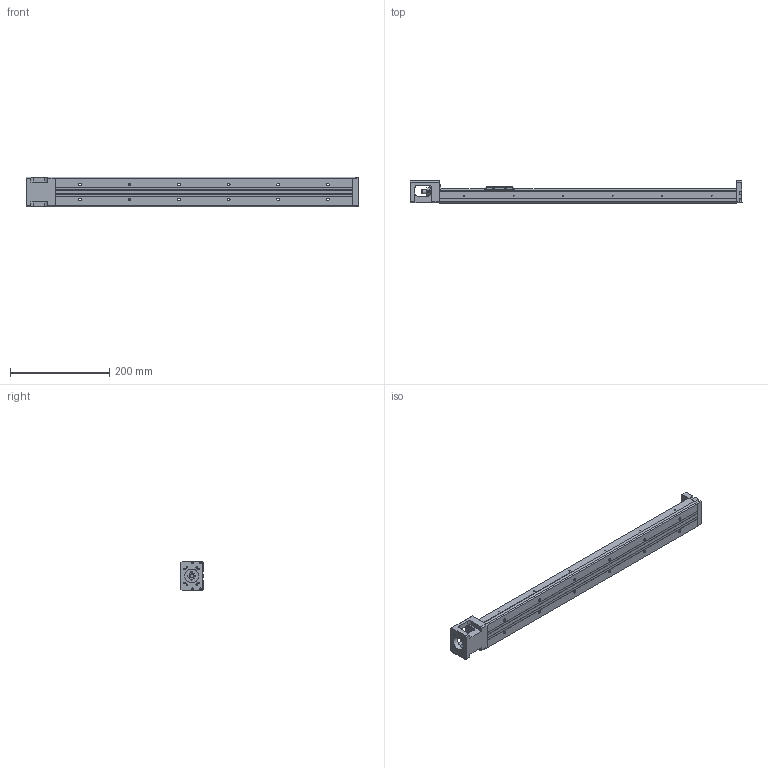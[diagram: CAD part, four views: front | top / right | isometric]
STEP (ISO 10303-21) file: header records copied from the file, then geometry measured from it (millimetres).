
FILE_DESCRIPTION(/* description */ (''),/* implementation_level */ '2;1');
FILE_NAME(/* name */ 'KP33S-600-D.stp',/* time_stamp */ '2020-06-04T18:20:27+08:00',/* author */ (''),/* organization */ (''),/* preprocessor_version */ 'ST-DEVELOPER v14',/* originating_system */ 'SIEMENS PLM Software NX 8.0',/* authorisation */ '');
FILE_SCHEMA (('AUTOMOTIVE_DESIGN { 1 0 10303 214 3 1 1 1 }'));
Length unit declared in the file: millimetre
Products named in the file (1): model1
Bounding box: 670 x 44.45 x 60 mm (x, y, z)
Volume: 684223.1 mm3; surface area: 193648 mm2
Topology: 5 solids, 14 shells, 668 faces, 1691 edges, 1113 vertices
Faces by surface type: plane 384, cylinder 199, bspline 31, cone 22, extrusion 21, torus 9, revolution 2
Full cylindrical faces by diameter (mm): 1.6 x5, 1.65 x4, 2.15 x6, 2.42 x4, 2.45 x4, 2.5 x16, 3.2 x4, 3.3 x4, 3.4 x4, 3.5 x10, 3.969 x1, 4 x4, 4.001 x1, 4.135 x2, 5.5 x12, 6 x4, 7.6 x1, 8 x5, 9.5 x12, 10.72 x3, 11.8 x2, 12 x6, 12.8 x1, 13 x2, 14 x1, 17.38 x3, 21.5 x1, 22 x2, 28 x1
Entity records: 34788 total; most frequent: CARTESIAN_POINT 16368, DIRECTION 3020, ORIENTED_EDGE 2918, EDGE_CURVE 1459, AXIS2_PLACEMENT_3D 1085, VERTEX_POINT 1039, EDGE_LOOP 958, VECTOR 848
